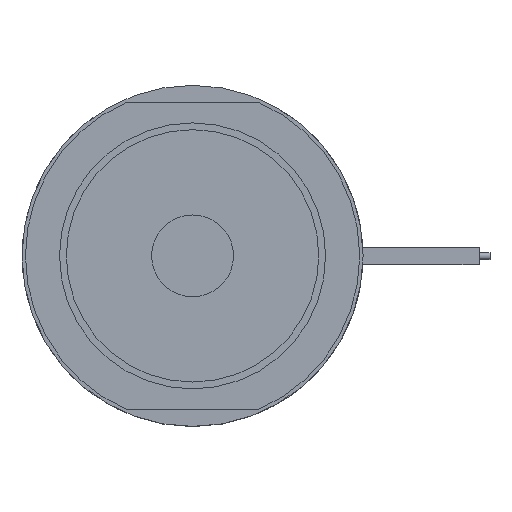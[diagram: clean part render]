
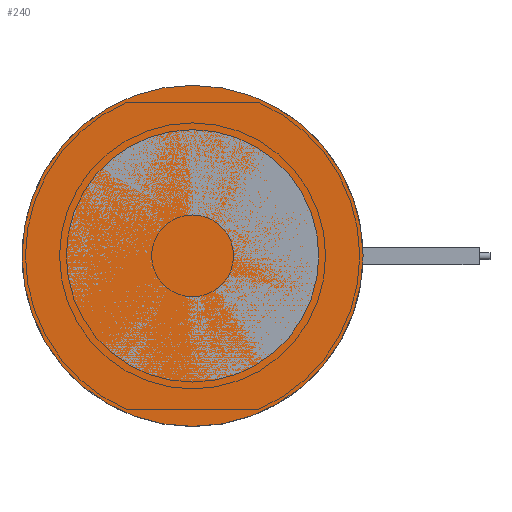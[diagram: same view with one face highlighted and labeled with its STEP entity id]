
A CAD part, top view. The second image highlights one B-rep face of the part: STEP entity #240.
In plain terms, the highlighted planar face has unit normal (0, 0, 1).
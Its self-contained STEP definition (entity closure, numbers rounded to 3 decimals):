
#240=ADVANCED_FACE('',(#334),#305,.F.);
#305=PLANE('',#1057);
#334=FACE_OUTER_BOUND('',#437,.T.);
#437=EDGE_LOOP('',(#537));
#537=ORIENTED_EDGE('',*,*,#870,.F.);
#779=VERTEX_POINT('',#1488);
#870=EDGE_CURVE('',#779,#779,#991,.T.);
#991=CIRCLE('',#1056,25.);
#1056=AXIS2_PLACEMENT_3D('',#1487,#1191,#1192);
#1057=AXIS2_PLACEMENT_3D('',#1489,#1193,#1194);
#1191=DIRECTION('',(0.,0.,-1.));
#1192=DIRECTION('',(-1.,0.,0.));
#1193=DIRECTION('',(0.,0.,-1.));
#1194=DIRECTION('',(-1.,0.,0.));
#1487=CARTESIAN_POINT('',(0.,0.,0.));
#1488=CARTESIAN_POINT('',(-25.,0.,0.));
#1489=CARTESIAN_POINT('',(0.,0.,0.));
